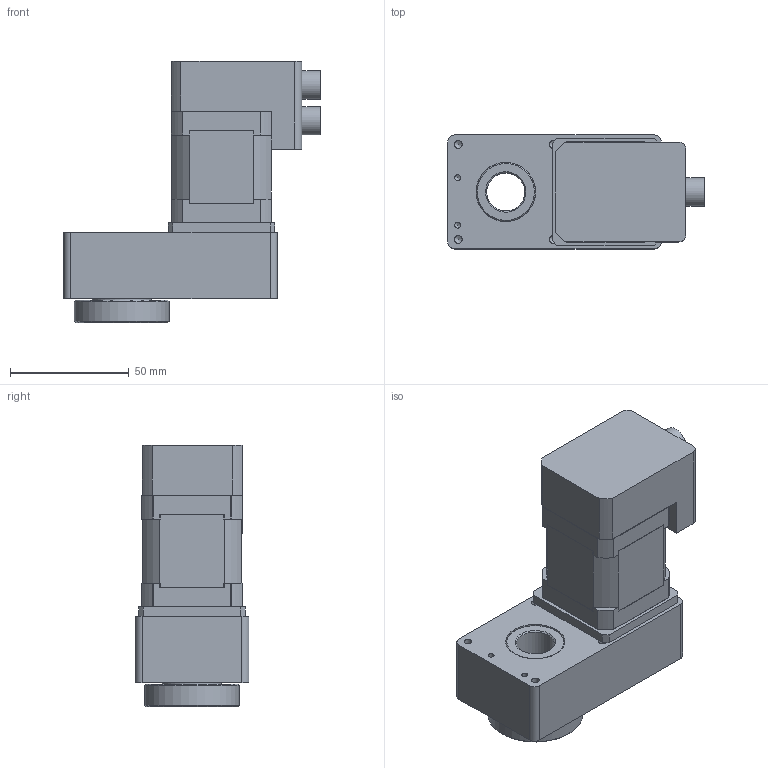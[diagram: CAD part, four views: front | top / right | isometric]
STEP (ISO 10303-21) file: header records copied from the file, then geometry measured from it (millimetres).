
FILE_DESCRIPTION((''),'2;1');
FILE_NAME('C:\Users\disegnatore3\Desktop\3D\TAVOLE ROTANTI\ROTAC PLUS\ROTAC PLUS 48\FORMATO CAD\ROTAC PLUS 48.stp','2017-01-18T10:49:53',('disegnatore3'),(''),'Autodesk Inventor 2012','Autodesk Inventor 2012','');
FILE_SCHEMA(('AUTOMOTIVE_DESIGN { 1 0 10303 214 1 1 1 1 }'));
Length unit declared in the file: millimetre
Products named in the file (7): ROTAC PLUS 48; C48P; PC48P; PI48; DIN 7984 M3 x 8; ISO 4762 M3 x 25; STEPPER MOTOR 17
Assembly tree (12 placements, depth 2):
  ROTAC PLUS 48
    C48P
    PC48P
    PI48
    DIN 7984 M3 x 8  x4
    ISO 4762 M3 x 25  x4
    STEPPER MOTOR 17
Bounding box: 108.15 x 48 x 110 mm (x, y, z)
Volume: 262181 mm3; surface area: 56852 mm2
Topology: 12 solids, 14 shells, 453 faces, 994 edges, 627 vertices
Faces by surface type: plane 198, cylinder 172, cone 45, torus 24, sphere 14
Full cylindrical faces by diameter (mm): 0.5 x10, 2 x10, 2.459 x12, 3 x8, 3.2 x4, 3.242 x14, 3.5 x4, 4 x6, 5 x2, 5.5 x8, 6 x8, 10 x4, 12 x2, 16 x1, 22 x4, 25 x2, 31.7 x1, 40 x1
Entity records: 9616 total; most frequent: DIRECTION 1745, CARTESIAN_POINT 1531, ORIENTED_EDGE 1276, AXIS2_PLACEMENT_3D 739, EDGE_CURVE 638, EDGE_LOOP 573, VERTEX_POINT 469, FACE_OUTER_BOUND 363
